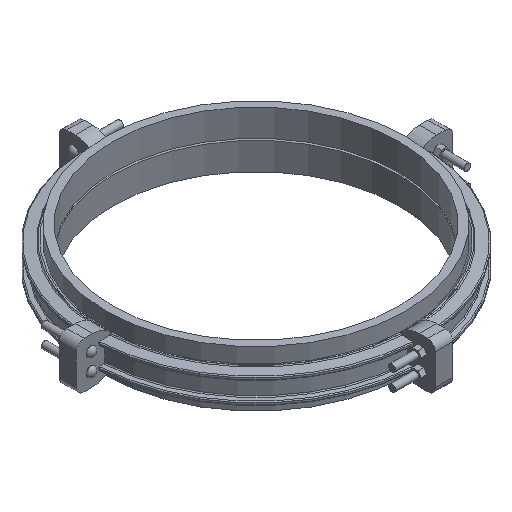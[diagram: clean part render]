
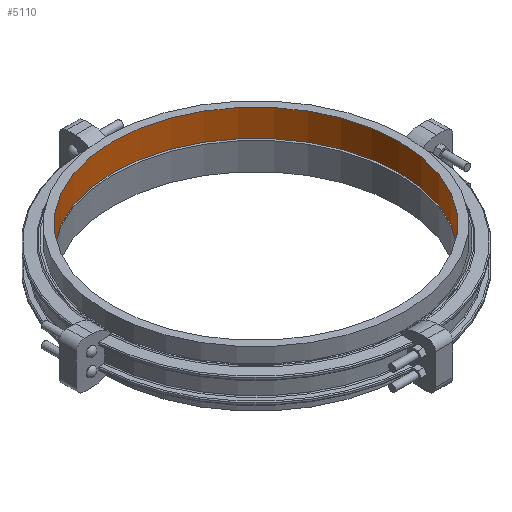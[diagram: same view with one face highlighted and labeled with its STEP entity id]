
A CAD part, isometric view. The second image highlights one B-rep face of the part: STEP entity #5110.
In plain terms, the highlighted cylindrical face has radius 939.8 mm (diameter 1879.6 mm), a full revolution.
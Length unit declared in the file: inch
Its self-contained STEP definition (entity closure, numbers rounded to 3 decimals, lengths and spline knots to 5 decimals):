
#568=LINE('',#9777,#911);
#911=VECTOR('',#7164,37.);
#1000=CYLINDRICAL_SURFACE('',#5737,37.);
#1282=FACE_OUTER_BOUND('',#1592,.T.);
#1592=EDGE_LOOP('',(#4398,#4399,#4400,#4401,#4402,#4403));
#1847=CIRCLE('',#5735,37.);
#1848=CIRCLE('',#5736,37.);
#1849=CIRCLE('',#5738,37.);
#1850=CIRCLE('',#5739,37.);
#2319=VERTEX_POINT('',#9771);
#2320=VERTEX_POINT('',#9772);
#2321=VERTEX_POINT('',#9776);
#2322=VERTEX_POINT('',#9778);
#3013=EDGE_CURVE('',#2319,#2320,#1847,.T.);
#3014=EDGE_CURVE('',#2320,#2319,#1848,.T.);
#3015=EDGE_CURVE('',#2320,#2321,#568,.T.);
#3016=EDGE_CURVE('',#2322,#2321,#1849,.T.);
#3017=EDGE_CURVE('',#2321,#2322,#1850,.T.);
#4398=ORIENTED_EDGE('',*,*,#3013,.T.);
#4399=ORIENTED_EDGE('',*,*,#3015,.T.);
#4400=ORIENTED_EDGE('',*,*,#3016,.F.);
#4401=ORIENTED_EDGE('',*,*,#3017,.F.);
#4402=ORIENTED_EDGE('',*,*,#3015,.F.);
#4403=ORIENTED_EDGE('',*,*,#3014,.T.);
#5110=ADVANCED_FACE('',(#1282),#1000,.F.);
#5735=AXIS2_PLACEMENT_3D('',#9773,#7158,#7159);
#5736=AXIS2_PLACEMENT_3D('',#9774,#7160,#7161);
#5737=AXIS2_PLACEMENT_3D('',#9775,#7162,#7163);
#5738=AXIS2_PLACEMENT_3D('',#9779,#7165,#7166);
#5739=AXIS2_PLACEMENT_3D('',#9780,#7167,#7168);
#7158=DIRECTION('center_axis',(0.,0.,-1.));
#7159=DIRECTION('ref_axis',(1.,0.,0.));
#7160=DIRECTION('center_axis',(0.,0.,-1.));
#7161=DIRECTION('ref_axis',(1.,0.,0.));
#7162=DIRECTION('center_axis',(0.,0.,-1.));
#7163=DIRECTION('ref_axis',(0.,1.,0.));
#7164=DIRECTION('',(0.,0.,1.));
#7165=DIRECTION('center_axis',(0.,0.,-1.));
#7166=DIRECTION('ref_axis',(1.,0.,0.));
#7167=DIRECTION('center_axis',(0.,0.,-1.));
#7168=DIRECTION('ref_axis',(1.,0.,0.));
#9771=CARTESIAN_POINT('',(0.,37.,0.));
#9772=CARTESIAN_POINT('',(0.,-37.,0.));
#9773=CARTESIAN_POINT('Origin',(0.,0.,0.));
#9774=CARTESIAN_POINT('Origin',(0.,0.,0.));
#9775=CARTESIAN_POINT('Origin',(0.,0.,3.5));
#9776=CARTESIAN_POINT('',(0.,-37.,7.));
#9777=CARTESIAN_POINT('',(0.,-37.,3.5));
#9778=CARTESIAN_POINT('',(0.,37.,7.));
#9779=CARTESIAN_POINT('Origin',(0.,0.,7.));
#9780=CARTESIAN_POINT('Origin',(0.,0.,7.));
